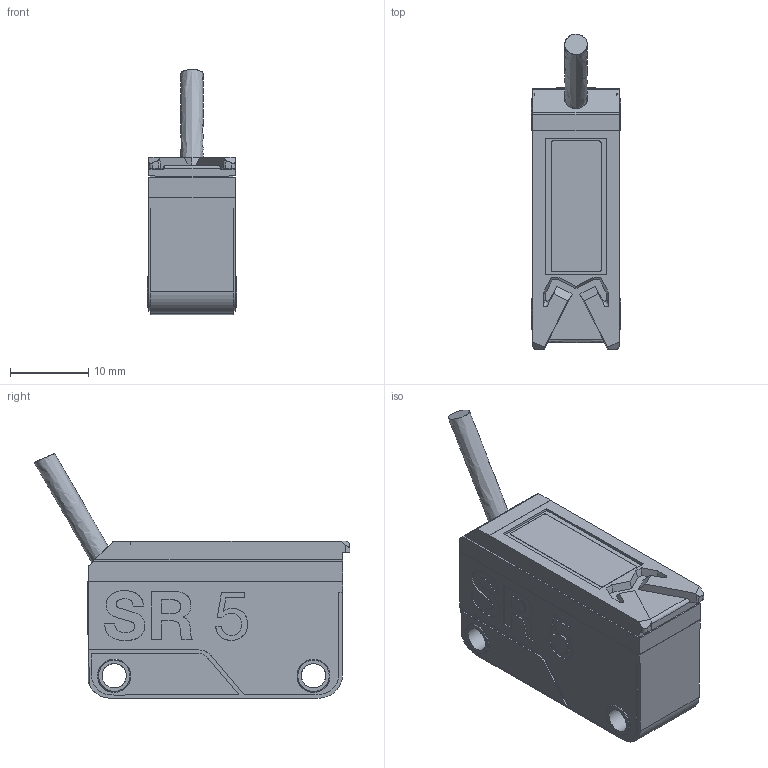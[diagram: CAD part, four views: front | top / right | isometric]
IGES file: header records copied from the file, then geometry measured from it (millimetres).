
Global section: file name: H:\lem\3DCAD_BR5B_Cable.igs; native system: NX V11.0; preprocessor: SIEMENS PLM Software NX 11.0; date: 20210827.091047; units: millimetre
Bounding box: 11.4 x 40.23 x 31.23 mm (x, y, z)
Surface area: 2959.7 mm2 (no closed solid volume)
Topology: 0 solids, 0 shells, 269 faces, 1622 edges, 1617 vertices
Faces by surface type: bspline 269
